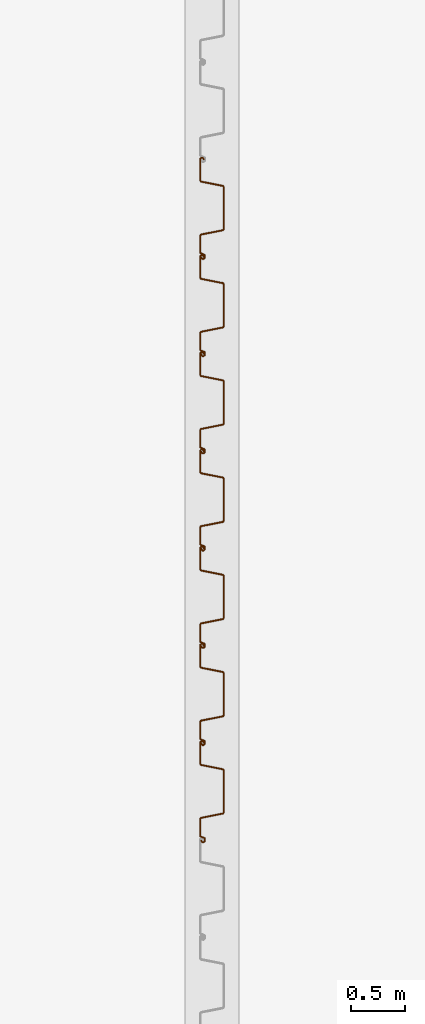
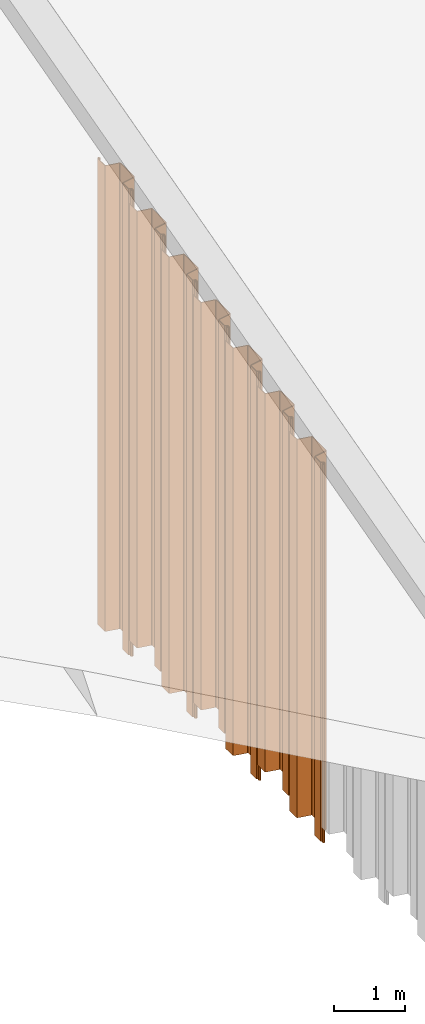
# One storey, part 23 of 32: 7 proxies.
"""IFC2X3 building model written with IfcOpenShell, lengths in millimetres."""

from ifc_helpers import new_model, entity, si_unit, converted_unit, derived_unit, direction, frame, frame_2d, origin, place, context, subcontext, project, spatial, polyline, circle_curve, parameter, trimmed, segment, composite_curve, outline, extrude, source, transform, mapped, type_object, type_shapes, element, save


model = new_model("IFC2X3")

# Units and contexts
model_context = context("Model", 3, precision=0.01, world=origin(), true_north=direction((6.12303176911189e-17, 1.0)))
body_context = subcontext(model_context, "Body", "Model", "MODEL_VIEW")
ifc_project = project(units=[si_unit("LENGTHUNIT", "METRE", prefix="MILLI"), si_unit("AREAUNIT", "SQUARE_METRE"), si_unit("VOLUMEUNIT", "CUBIC_METRE"), converted_unit("PLANEANGLEUNIT", "DEGREE", entity("IfcRatioMeasure", 0.0174532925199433), si_unit("PLANEANGLEUNIT", "RADIAN"), dimensions=[0, 0, 0, 0, 0, 0, 0]), si_unit("MASSUNIT", "GRAM", prefix="KILO"), derived_unit("MASSDENSITYUNIT", [(si_unit("MASSUNIT", "GRAM", prefix="KILO"), 1), (si_unit("LENGTHUNIT", "METRE"), -3)]), si_unit("TIMEUNIT", "SECOND"), si_unit("FREQUENCYUNIT", "HERTZ"), si_unit("THERMODYNAMICTEMPERATUREUNIT", "DEGREE_CELSIUS"), derived_unit("THERMALTRANSMITTANCEUNIT", [(si_unit("MASSUNIT", "GRAM", prefix="KILO"), 1), (si_unit("THERMODYNAMICTEMPERATUREUNIT", "KELVIN"), -1), (si_unit("TIMEUNIT", "SECOND"), -3)]), derived_unit("VOLUMETRICFLOWRATEUNIT", [(si_unit("LENGTHUNIT", "METRE"), 3), (si_unit("TIMEUNIT", "SECOND"), -1)]), si_unit("ELECTRICCURRENTUNIT", "AMPERE"), si_unit("ELECTRICVOLTAGEUNIT", "VOLT"), si_unit("POWERUNIT", "WATT"), si_unit("FORCEUNIT", "NEWTON", prefix="KILO"), si_unit("ILLUMINANCEUNIT", "LUX"), si_unit("LUMINOUSFLUXUNIT", "LUMEN"), si_unit("LUMINOUSINTENSITYUNIT", "CANDELA"), derived_unit("USERDEFINED", [(si_unit("MASSUNIT", "GRAM", prefix="KILO"), -1), (si_unit("LENGTHUNIT", "METRE"), -2), (si_unit("TIMEUNIT", "SECOND"), 3), (si_unit("LUMINOUSFLUXUNIT", "LUMEN"), 1)]), derived_unit("LINEARVELOCITYUNIT", [(si_unit("LENGTHUNIT", "METRE"), 1), (si_unit("TIMEUNIT", "SECOND"), -1)]), si_unit("PRESSUREUNIT", "PASCAL"), derived_unit("USERDEFINED", [(si_unit("LENGTHUNIT", "METRE"), -2), (si_unit("MASSUNIT", "GRAM", prefix="KILO"), 1), (si_unit("TIMEUNIT", "SECOND"), -2)])], contexts=[model_context])

# Site, building, storey
site_placement = place(None, origin())
site = spatial("IfcSite", under=ifc_project, at=site_placement, Name="Default", CompositionType="ELEMENT")
building_placement = place(site_placement, origin())
building = spatial("IfcBuilding", under=site, at=building_placement, CompositionType="ELEMENT")
storey_placement = place(building_placement, origin())
storey = spatial("IfcBuildingStorey", under=building, at=storey_placement, Name="矢板", CompositionType="ELEMENT", Elevation=0.0)

# Proxies
building_element_proxy_type_1 = type_object("IfcBuildingElementProxyType", Name="鋼矢板10H型", PredefinedType="NOTDEFINED")
shared_shape_1 = source(origin(), body_context, "Body", "SweptSolid", [
    extrude(outline(composite_curve([segment(trimmed(circle_curve(frame_2d((85.3662976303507, 306.644432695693), x_axis=(0.422618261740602, 0.906307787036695)), 13.885714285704), [parameter(24.9999999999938)], [parameter(90.0000000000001)], True, "PARAMETER"), True, "CONTINUOUS"), segment(polyline([(72.7815666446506, 312.512789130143), (9.8129512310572, 177.476157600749)]), True, "CONTINUOUS"), segment(trimmed(circle_curve(frame_2d((29.3891994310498, 168.347603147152), x_axis=(0.422618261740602, 0.906307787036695)), 21.6), [parameter(90.0000000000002)], [parameter(168.69006752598)], True, "PARAMETER"), True, "CONTINUOUS"), segment(polyline([(16.598697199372, 150.941769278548), (175.329723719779, 34.2998683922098)]), True, "CONTINUOUS"), segment(trimmed(circle_curve(frame_2d((168.93447260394, 25.596951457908), x_axis=(0.422618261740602, 0.906307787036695)), 10.7999999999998), [parameter(270.0)], [parameter(348.690067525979)], True, "PARAMETER"), False, "CONTINUOUS"), segment(polyline([(178.722596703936, 21.0326742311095), (18.2974003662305, -323.000269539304)]), True, "CONTINUOUS"), segment(trimmed(circle_curve(frame_2d((8.50927626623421, -318.435992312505), x_axis=(0.422618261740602, 0.906307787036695)), 10.8), [parameter(191.30993247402)], [parameter(269.999999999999)], True, "PARAMETER"), False, "CONTINUOUS"), segment(polyline([(5.95324328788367, -328.929166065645), (-185.429973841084, -282.310113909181)]), True, "CONTINUOUS"), segment(trimmed(circle_curve(frame_2d((-190.542039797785, -303.296461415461), x_axis=(0.422618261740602, 0.906307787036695)), 21.6000000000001), [parameter(11.3099324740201)], [parameter(90.0000000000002)], True, "PARAMETER"), True, "CONTINUOUS"), segment(polyline([(-210.118287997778, -294.167906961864), (-290.330886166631, -466.184378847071)]), True, "CONTINUOUS"), segment(trimmed(circle_curve(frame_2d((-270.754637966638, -475.312933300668), x_axis=(0.422618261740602, 0.906307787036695)), 21.6), [parameter(90.0000000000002)], [parameter(269.999999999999)], True, "PARAMETER"), True, "CONTINUOUS"), segment(polyline([(-251.178389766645, -484.441487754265), (-249.065298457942, -479.909948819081)]), True, "CONTINUOUS"), segment(polyline([(-249.065298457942, -479.909948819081), (-258.853422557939, -475.345671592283)]), True, "CONTINUOUS"), segment(polyline([(-258.853422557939, -475.345671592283), (-260.966513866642, -479.877210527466)]), True, "CONTINUOUS"), segment(trimmed(circle_curve(frame_2d((-270.754637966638, -475.312933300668), x_axis=(0.422618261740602, 0.906307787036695)), 10.8), [parameter(90.0000000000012)], [parameter(270.0)], True, "PARAMETER"), False, "CONTINUOUS"), segment(polyline([(-280.542762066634, -470.748656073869), (-200.330163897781, -298.732184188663)]), True, "CONTINUOUS"), segment(trimmed(circle_curve(frame_2d((-190.542039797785, -303.296461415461), x_axis=(0.422618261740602, 0.906307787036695)), 10.8), [parameter(11.3099324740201)], [parameter(89.9999999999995)], True, "PARAMETER"), False, "CONTINUOUS"), segment(polyline([(-187.986006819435, -292.803287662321), (3.39721030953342, -339.422339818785)]), True, "CONTINUOUS"), segment(trimmed(circle_curve(frame_2d((8.50927626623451, -318.435992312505), x_axis=(0.422618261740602, 0.906307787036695)), 21.6), [parameter(191.30993247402)], [parameter(270.0)], True, "PARAMETER"), True, "CONTINUOUS"), segment(polyline([(28.0855244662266, -327.564546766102), (188.510720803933, 16.4683970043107)]), True, "CONTINUOUS"), segment(trimmed(circle_curve(frame_2d((168.93447260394, 25.5969514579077), x_axis=(0.422618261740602, 0.906307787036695)), 21.6), [parameter(270.0)], [parameter(348.69006752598)], True, "PARAMETER"), True, "CONTINUOUS"), segment(polyline([(181.724974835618, 43.0027853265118), (22.9939483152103, 159.644686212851)]), True, "CONTINUOUS"), segment(trimmed(circle_curve(frame_2d((29.3891994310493, 168.347603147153), x_axis=(0.422618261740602, 0.906307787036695)), 10.7999999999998), [parameter(89.9999999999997)], [parameter(168.690067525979)], True, "PARAMETER"), False, "CONTINUOUS"), segment(polyline([(19.6010753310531, 172.911880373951), (82.5696907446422, 307.948511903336)]), True, "CONTINUOUS"), segment(trimmed(circle_curve(frame_2d((85.3662976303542, 306.64443269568), x_axis=(0.422618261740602, 0.906307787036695)), 3.08571428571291), [parameter(25.0000000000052)], [parameter(90.0000000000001)], True, "PARAMETER"), False, "CONTINUOUS"), segment(polyline([(85.3662976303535, 309.730146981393), (122.220231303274, 309.730146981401)]), True, "CONTINUOUS"), segment(trimmed(circle_curve(frame_2d((122.220231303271, 323.615861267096), x_axis=(0.422618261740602, 0.906307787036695)), 13.8857142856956), [parameter(205.000000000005)], [parameter(270.0)], True, "PARAMETER"), True, "CONTINUOUS"), segment(polyline([(134.804962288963, 317.747504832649), (141.079261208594, 331.202782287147)]), True, "CONTINUOUS"), segment(trimmed(circle_curve(frame_2d((121.503013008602, 340.331336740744), x_axis=(0.422618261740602, 0.906307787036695)), 21.6), [parameter(270.0)], [parameter(90.0000000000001)], True, "PARAMETER"), True, "CONTINUOUS"), segment(polyline([(101.926764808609, 349.459891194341), (99.8136734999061, 344.928352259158)]), True, "CONTINUOUS"), segment(polyline([(99.8136734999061, 344.928352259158), (109.601797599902, 340.364075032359)]), True, "CONTINUOUS"), segment(polyline([(109.601797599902, 340.364075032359), (111.714888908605, 344.895613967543)]), True, "CONTINUOUS"), segment(trimmed(circle_curve(frame_2d((121.503013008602, 340.331336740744), x_axis=(0.422618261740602, 0.906307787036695)), 10.8), [parameter(270.0)], [parameter(89.9999999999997)], True, "PARAMETER"), False, "CONTINUOUS"), segment(polyline([(131.291137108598, 335.767059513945), (125.01683818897, 322.311782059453)]), True, "CONTINUOUS"), segment(trimmed(circle_curve(frame_2d((122.220231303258, 323.615861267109), x_axis=(0.422618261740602, 0.906307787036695)), 3.08571428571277), [parameter(204.999999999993)], [parameter(270.0)], True, "PARAMETER"), False, "CONTINUOUS"), segment(polyline([(122.220231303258, 320.530146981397), (85.3662976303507, 320.530146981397)]), True, "CONTINUOUS")], self_intersect=False)), frame((95.205667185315, -48.8888888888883, -6500.0), z_axis=(0.0, 0.0, -1.0), x_axis=(0.4226182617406, 0.906307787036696, 0.0)), (0.0, 0.0, -1.0), 6500.0),
])
type_shapes(building_element_proxy_type_1, [shared_shape_1])
for number, where, z_axis, x_axis in (
    (1, (148500.0, -22249.0, 8709.0), (0.0, 0.0, 1.0), (0.0, -1.0, 0.0)),
    (2, (148500.0, -23149.0, 8471.0), (0.0, 0.0, 1.0), (0.0, -1.0, 0.0)),
):
    element("IfcBuildingElementProxy", number, at=place(storey_placement, frame(where, z_axis=z_axis, x_axis=x_axis)), inside=storey, type_object=building_element_proxy_type_1, Name="鋼矢板10H型:鋼矢板10H型", ObjectType="鋼矢板10H型:鋼矢板10H型", context=body_context, shape_type="MappedRepresentation", body=[
        mapped(shared_shape_1, transform((0.0, 0.0, 0.0), scale=1.0)),
    ])
building_element_proxy_type_2 = type_object("IfcBuildingElementProxyType", Name="鋼矢板10H型", PredefinedType="NOTDEFINED")
shared_shape_2 = source(origin(), body_context, "Body", "SweptSolid", [
    extrude(outline(composite_curve([segment(trimmed(circle_curve(frame_2d((85.3662976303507, 306.644432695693), x_axis=(0.422618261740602, 0.906307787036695)), 13.885714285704), [parameter(24.9999999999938)], [parameter(90.0000000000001)], True, "PARAMETER"), True, "CONTINUOUS"), segment(polyline([(72.7815666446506, 312.512789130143), (9.8129512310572, 177.476157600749)]), True, "CONTINUOUS"), segment(trimmed(circle_curve(frame_2d((29.3891994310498, 168.347603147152), x_axis=(0.422618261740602, 0.906307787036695)), 21.6), [parameter(90.0000000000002)], [parameter(168.69006752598)], True, "PARAMETER"), True, "CONTINUOUS"), segment(polyline([(16.598697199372, 150.941769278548), (175.329723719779, 34.2998683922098)]), True, "CONTINUOUS"), segment(trimmed(circle_curve(frame_2d((168.93447260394, 25.596951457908), x_axis=(0.422618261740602, 0.906307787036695)), 10.7999999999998), [parameter(270.0)], [parameter(348.690067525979)], True, "PARAMETER"), False, "CONTINUOUS"), segment(polyline([(178.722596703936, 21.0326742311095), (18.2974003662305, -323.000269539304)]), True, "CONTINUOUS"), segment(trimmed(circle_curve(frame_2d((8.50927626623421, -318.435992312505), x_axis=(0.422618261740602, 0.906307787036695)), 10.8), [parameter(191.30993247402)], [parameter(269.999999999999)], True, "PARAMETER"), False, "CONTINUOUS"), segment(polyline([(5.95324328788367, -328.929166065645), (-185.429973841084, -282.310113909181)]), True, "CONTINUOUS"), segment(trimmed(circle_curve(frame_2d((-190.542039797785, -303.296461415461), x_axis=(0.422618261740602, 0.906307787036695)), 21.6000000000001), [parameter(11.3099324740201)], [parameter(90.0000000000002)], True, "PARAMETER"), True, "CONTINUOUS"), segment(polyline([(-210.118287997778, -294.167906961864), (-290.330886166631, -466.184378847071)]), True, "CONTINUOUS"), segment(trimmed(circle_curve(frame_2d((-270.754637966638, -475.312933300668), x_axis=(0.422618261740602, 0.906307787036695)), 21.6), [parameter(90.0000000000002)], [parameter(269.999999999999)], True, "PARAMETER"), True, "CONTINUOUS"), segment(polyline([(-251.178389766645, -484.441487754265), (-249.065298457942, -479.909948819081)]), True, "CONTINUOUS"), segment(polyline([(-249.065298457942, -479.909948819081), (-258.853422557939, -475.345671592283)]), True, "CONTINUOUS"), segment(polyline([(-258.853422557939, -475.345671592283), (-260.966513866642, -479.877210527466)]), True, "CONTINUOUS"), segment(trimmed(circle_curve(frame_2d((-270.754637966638, -475.312933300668), x_axis=(0.422618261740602, 0.906307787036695)), 10.8), [parameter(90.0000000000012)], [parameter(270.0)], True, "PARAMETER"), False, "CONTINUOUS"), segment(polyline([(-280.542762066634, -470.748656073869), (-200.330163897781, -298.732184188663)]), True, "CONTINUOUS"), segment(trimmed(circle_curve(frame_2d((-190.542039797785, -303.296461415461), x_axis=(0.422618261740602, 0.906307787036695)), 10.8), [parameter(11.3099324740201)], [parameter(89.9999999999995)], True, "PARAMETER"), False, "CONTINUOUS"), segment(polyline([(-187.986006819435, -292.803287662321), (3.39721030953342, -339.422339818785)]), True, "CONTINUOUS"), segment(trimmed(circle_curve(frame_2d((8.50927626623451, -318.435992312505), x_axis=(0.422618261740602, 0.906307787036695)), 21.6), [parameter(191.30993247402)], [parameter(270.0)], True, "PARAMETER"), True, "CONTINUOUS"), segment(polyline([(28.0855244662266, -327.564546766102), (188.510720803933, 16.4683970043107)]), True, "CONTINUOUS"), segment(trimmed(circle_curve(frame_2d((168.93447260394, 25.5969514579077), x_axis=(0.422618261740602, 0.906307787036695)), 21.6), [parameter(270.0)], [parameter(348.69006752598)], True, "PARAMETER"), True, "CONTINUOUS"), segment(polyline([(181.724974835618, 43.0027853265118), (22.9939483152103, 159.644686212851)]), True, "CONTINUOUS"), segment(trimmed(circle_curve(frame_2d((29.3891994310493, 168.347603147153), x_axis=(0.422618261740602, 0.906307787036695)), 10.7999999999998), [parameter(89.9999999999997)], [parameter(168.690067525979)], True, "PARAMETER"), False, "CONTINUOUS"), segment(polyline([(19.6010753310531, 172.911880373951), (82.5696907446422, 307.948511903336)]), True, "CONTINUOUS"), segment(trimmed(circle_curve(frame_2d((85.3662976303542, 306.64443269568), x_axis=(0.422618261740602, 0.906307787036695)), 3.08571428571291), [parameter(25.0000000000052)], [parameter(90.0000000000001)], True, "PARAMETER"), False, "CONTINUOUS"), segment(polyline([(85.3662976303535, 309.730146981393), (122.220231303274, 309.730146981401)]), True, "CONTINUOUS"), segment(trimmed(circle_curve(frame_2d((122.220231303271, 323.615861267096), x_axis=(0.422618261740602, 0.906307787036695)), 13.8857142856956), [parameter(205.000000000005)], [parameter(270.0)], True, "PARAMETER"), True, "CONTINUOUS"), segment(polyline([(134.804962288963, 317.747504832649), (141.079261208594, 331.202782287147)]), True, "CONTINUOUS"), segment(trimmed(circle_curve(frame_2d((121.503013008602, 340.331336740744), x_axis=(0.422618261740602, 0.906307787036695)), 21.6), [parameter(270.0)], [parameter(90.0000000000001)], True, "PARAMETER"), True, "CONTINUOUS"), segment(polyline([(101.926764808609, 349.459891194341), (99.8136734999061, 344.928352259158)]), True, "CONTINUOUS"), segment(polyline([(99.8136734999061, 344.928352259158), (109.601797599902, 340.364075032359)]), True, "CONTINUOUS"), segment(polyline([(109.601797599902, 340.364075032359), (111.714888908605, 344.895613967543)]), True, "CONTINUOUS"), segment(trimmed(circle_curve(frame_2d((121.503013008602, 340.331336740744), x_axis=(0.422618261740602, 0.906307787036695)), 10.8), [parameter(270.0)], [parameter(89.9999999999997)], True, "PARAMETER"), False, "CONTINUOUS"), segment(polyline([(131.291137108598, 335.767059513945), (125.01683818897, 322.311782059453)]), True, "CONTINUOUS"), segment(trimmed(circle_curve(frame_2d((122.220231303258, 323.615861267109), x_axis=(0.422618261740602, 0.906307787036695)), 3.08571428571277), [parameter(204.999999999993)], [parameter(270.0)], True, "PARAMETER"), False, "CONTINUOUS"), segment(polyline([(122.220231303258, 320.530146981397), (85.3662976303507, 320.530146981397)]), True, "CONTINUOUS")], self_intersect=False)), frame((95.205667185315, -48.8888888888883, -7000.0), z_axis=(0.0, 0.0, -1.0), x_axis=(0.4226182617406, 0.906307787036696, 0.0)), (0.0, 0.0, -1.0), 7000.0),
])
type_shapes(building_element_proxy_type_2, [shared_shape_2])
for number, where, z_axis, x_axis in (
    (3, (148500.0, -20449.0, 9183.0), (0.0, 0.0, 1.0), (0.0, -1.0, 0.0)),
    (4, (148500.0, -21349.0, 8946.0), (0.0, 0.0, 1.0), (0.0, -1.0, 0.0)),
):
    element("IfcBuildingElementProxy", number, at=place(storey_placement, frame(where, z_axis=z_axis, x_axis=x_axis)), inside=storey, type_object=building_element_proxy_type_2, Name="鋼矢板10H型:鋼矢板10H型", ObjectType="鋼矢板10H型:鋼矢板10H型", context=body_context, shape_type="MappedRepresentation", body=[
        mapped(shared_shape_2, transform((0.0, 0.0, 0.0), scale=1.0)),
    ])
building_element_proxy_type_3 = type_object("IfcBuildingElementProxyType", Name="鋼矢板10H型", PredefinedType="NOTDEFINED")
shared_shape_3 = source(origin(), body_context, "Body", "SweptSolid", [
    extrude(outline(composite_curve([segment(trimmed(circle_curve(frame_2d((85.3662976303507, 306.644432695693), x_axis=(0.422618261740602, 0.906307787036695)), 13.885714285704), [parameter(24.9999999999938)], [parameter(90.0000000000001)], True, "PARAMETER"), True, "CONTINUOUS"), segment(polyline([(72.7815666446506, 312.512789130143), (9.8129512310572, 177.476157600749)]), True, "CONTINUOUS"), segment(trimmed(circle_curve(frame_2d((29.3891994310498, 168.347603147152), x_axis=(0.422618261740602, 0.906307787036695)), 21.6), [parameter(90.0000000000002)], [parameter(168.69006752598)], True, "PARAMETER"), True, "CONTINUOUS"), segment(polyline([(16.598697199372, 150.941769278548), (175.329723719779, 34.2998683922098)]), True, "CONTINUOUS"), segment(trimmed(circle_curve(frame_2d((168.93447260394, 25.596951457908), x_axis=(0.422618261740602, 0.906307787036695)), 10.7999999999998), [parameter(270.0)], [parameter(348.690067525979)], True, "PARAMETER"), False, "CONTINUOUS"), segment(polyline([(178.722596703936, 21.0326742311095), (18.2974003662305, -323.000269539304)]), True, "CONTINUOUS"), segment(trimmed(circle_curve(frame_2d((8.50927626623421, -318.435992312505), x_axis=(0.422618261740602, 0.906307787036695)), 10.8), [parameter(191.30993247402)], [parameter(269.999999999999)], True, "PARAMETER"), False, "CONTINUOUS"), segment(polyline([(5.95324328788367, -328.929166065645), (-185.429973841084, -282.310113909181)]), True, "CONTINUOUS"), segment(trimmed(circle_curve(frame_2d((-190.542039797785, -303.296461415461), x_axis=(0.422618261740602, 0.906307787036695)), 21.6000000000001), [parameter(11.3099324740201)], [parameter(90.0000000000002)], True, "PARAMETER"), True, "CONTINUOUS"), segment(polyline([(-210.118287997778, -294.167906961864), (-290.330886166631, -466.184378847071)]), True, "CONTINUOUS"), segment(trimmed(circle_curve(frame_2d((-270.754637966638, -475.312933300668), x_axis=(0.422618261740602, 0.906307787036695)), 21.6), [parameter(90.0000000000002)], [parameter(269.999999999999)], True, "PARAMETER"), True, "CONTINUOUS"), segment(polyline([(-251.178389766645, -484.441487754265), (-249.065298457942, -479.909948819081)]), True, "CONTINUOUS"), segment(polyline([(-249.065298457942, -479.909948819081), (-258.853422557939, -475.345671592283)]), True, "CONTINUOUS"), segment(polyline([(-258.853422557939, -475.345671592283), (-260.966513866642, -479.877210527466)]), True, "CONTINUOUS"), segment(trimmed(circle_curve(frame_2d((-270.754637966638, -475.312933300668), x_axis=(0.422618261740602, 0.906307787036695)), 10.8), [parameter(90.0000000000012)], [parameter(270.0)], True, "PARAMETER"), False, "CONTINUOUS"), segment(polyline([(-280.542762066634, -470.748656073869), (-200.330163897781, -298.732184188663)]), True, "CONTINUOUS"), segment(trimmed(circle_curve(frame_2d((-190.542039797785, -303.296461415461), x_axis=(0.422618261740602, 0.906307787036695)), 10.8), [parameter(11.3099324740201)], [parameter(89.9999999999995)], True, "PARAMETER"), False, "CONTINUOUS"), segment(polyline([(-187.986006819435, -292.803287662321), (3.39721030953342, -339.422339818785)]), True, "CONTINUOUS"), segment(trimmed(circle_curve(frame_2d((8.50927626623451, -318.435992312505), x_axis=(0.422618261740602, 0.906307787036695)), 21.6), [parameter(191.30993247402)], [parameter(270.0)], True, "PARAMETER"), True, "CONTINUOUS"), segment(polyline([(28.0855244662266, -327.564546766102), (188.510720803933, 16.4683970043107)]), True, "CONTINUOUS"), segment(trimmed(circle_curve(frame_2d((168.93447260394, 25.5969514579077), x_axis=(0.422618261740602, 0.906307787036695)), 21.6), [parameter(270.0)], [parameter(348.69006752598)], True, "PARAMETER"), True, "CONTINUOUS"), segment(polyline([(181.724974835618, 43.0027853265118), (22.9939483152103, 159.644686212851)]), True, "CONTINUOUS"), segment(trimmed(circle_curve(frame_2d((29.3891994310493, 168.347603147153), x_axis=(0.422618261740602, 0.906307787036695)), 10.7999999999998), [parameter(89.9999999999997)], [parameter(168.690067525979)], True, "PARAMETER"), False, "CONTINUOUS"), segment(polyline([(19.6010753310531, 172.911880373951), (82.5696907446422, 307.948511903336)]), True, "CONTINUOUS"), segment(trimmed(circle_curve(frame_2d((85.3662976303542, 306.64443269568), x_axis=(0.422618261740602, 0.906307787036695)), 3.08571428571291), [parameter(25.0000000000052)], [parameter(90.0000000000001)], True, "PARAMETER"), False, "CONTINUOUS"), segment(polyline([(85.3662976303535, 309.730146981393), (122.220231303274, 309.730146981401)]), True, "CONTINUOUS"), segment(trimmed(circle_curve(frame_2d((122.220231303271, 323.615861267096), x_axis=(0.422618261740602, 0.906307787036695)), 13.8857142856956), [parameter(205.000000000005)], [parameter(270.0)], True, "PARAMETER"), True, "CONTINUOUS"), segment(polyline([(134.804962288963, 317.747504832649), (141.079261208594, 331.202782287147)]), True, "CONTINUOUS"), segment(trimmed(circle_curve(frame_2d((121.503013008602, 340.331336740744), x_axis=(0.422618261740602, 0.906307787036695)), 21.6), [parameter(270.0)], [parameter(90.0000000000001)], True, "PARAMETER"), True, "CONTINUOUS"), segment(polyline([(101.926764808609, 349.459891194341), (99.8136734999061, 344.928352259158)]), True, "CONTINUOUS"), segment(polyline([(99.8136734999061, 344.928352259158), (109.601797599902, 340.364075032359)]), True, "CONTINUOUS"), segment(polyline([(109.601797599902, 340.364075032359), (111.714888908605, 344.895613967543)]), True, "CONTINUOUS"), segment(trimmed(circle_curve(frame_2d((121.503013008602, 340.331336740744), x_axis=(0.422618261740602, 0.906307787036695)), 10.8), [parameter(270.0)], [parameter(89.9999999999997)], True, "PARAMETER"), False, "CONTINUOUS"), segment(polyline([(131.291137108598, 335.767059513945), (125.01683818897, 322.311782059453)]), True, "CONTINUOUS"), segment(trimmed(circle_curve(frame_2d((122.220231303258, 323.615861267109), x_axis=(0.422618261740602, 0.906307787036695)), 3.08571428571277), [parameter(204.999999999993)], [parameter(270.0)], True, "PARAMETER"), False, "CONTINUOUS"), segment(polyline([(122.220231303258, 320.530146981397), (85.3662976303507, 320.530146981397)]), True, "CONTINUOUS")], self_intersect=False)), frame((95.205667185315, -48.8888888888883, -7500.0), z_axis=(0.0, 0.0, -1.0), x_axis=(0.4226182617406, 0.906307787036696, 0.0)), (0.0, 0.0, -1.0), 7500.0),
])
type_shapes(building_element_proxy_type_3, [shared_shape_3])
for number, where, z_axis, x_axis in (
    (5, (148500.0, -18649.0, 9657.0), (0.0, 0.0, 1.0), (0.0, -1.0, 0.0)),
    (6, (148500.0, -19549.0, 9420.0), (0.0, 0.0, 1.0), (0.0, -1.0, 0.0)),
):
    element("IfcBuildingElementProxy", number, at=place(storey_placement, frame(where, z_axis=z_axis, x_axis=x_axis)), inside=storey, type_object=building_element_proxy_type_3, Name="鋼矢板10H型:鋼矢板10H型", ObjectType="鋼矢板10H型:鋼矢板10H型", context=body_context, shape_type="MappedRepresentation", body=[
        mapped(shared_shape_3, transform((0.0, 0.0, 0.0), scale=1.0)),
    ])
building_element_proxy_type_4 = type_object("IfcBuildingElementProxyType", Name="鋼矢板10H型", PredefinedType="NOTDEFINED")
shared_shape_4 = source(origin(), body_context, "Body", "SweptSolid", [
    extrude(outline(composite_curve([segment(trimmed(circle_curve(frame_2d((85.3662976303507, 306.644432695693), x_axis=(0.422618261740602, 0.906307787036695)), 13.885714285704), [parameter(24.9999999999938)], [parameter(90.0000000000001)], True, "PARAMETER"), True, "CONTINUOUS"), segment(polyline([(72.7815666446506, 312.512789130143), (9.8129512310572, 177.476157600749)]), True, "CONTINUOUS"), segment(trimmed(circle_curve(frame_2d((29.3891994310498, 168.347603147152), x_axis=(0.422618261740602, 0.906307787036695)), 21.6), [parameter(90.0000000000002)], [parameter(168.69006752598)], True, "PARAMETER"), True, "CONTINUOUS"), segment(polyline([(16.598697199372, 150.941769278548), (175.329723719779, 34.2998683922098)]), True, "CONTINUOUS"), segment(trimmed(circle_curve(frame_2d((168.93447260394, 25.596951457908), x_axis=(0.422618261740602, 0.906307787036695)), 10.7999999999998), [parameter(270.0)], [parameter(348.690067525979)], True, "PARAMETER"), False, "CONTINUOUS"), segment(polyline([(178.722596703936, 21.0326742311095), (18.2974003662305, -323.000269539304)]), True, "CONTINUOUS"), segment(trimmed(circle_curve(frame_2d((8.50927626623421, -318.435992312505), x_axis=(0.422618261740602, 0.906307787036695)), 10.8), [parameter(191.30993247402)], [parameter(269.999999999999)], True, "PARAMETER"), False, "CONTINUOUS"), segment(polyline([(5.95324328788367, -328.929166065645), (-185.429973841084, -282.310113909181)]), True, "CONTINUOUS"), segment(trimmed(circle_curve(frame_2d((-190.542039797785, -303.296461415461), x_axis=(0.422618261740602, 0.906307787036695)), 21.6000000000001), [parameter(11.3099324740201)], [parameter(90.0000000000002)], True, "PARAMETER"), True, "CONTINUOUS"), segment(polyline([(-210.118287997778, -294.167906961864), (-290.330886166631, -466.184378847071)]), True, "CONTINUOUS"), segment(trimmed(circle_curve(frame_2d((-270.754637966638, -475.312933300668), x_axis=(0.422618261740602, 0.906307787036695)), 21.6), [parameter(90.0000000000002)], [parameter(269.999999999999)], True, "PARAMETER"), True, "CONTINUOUS"), segment(polyline([(-251.178389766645, -484.441487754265), (-249.065298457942, -479.909948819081)]), True, "CONTINUOUS"), segment(polyline([(-249.065298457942, -479.909948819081), (-258.853422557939, -475.345671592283)]), True, "CONTINUOUS"), segment(polyline([(-258.853422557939, -475.345671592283), (-260.966513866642, -479.877210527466)]), True, "CONTINUOUS"), segment(trimmed(circle_curve(frame_2d((-270.754637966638, -475.312933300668), x_axis=(0.422618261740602, 0.906307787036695)), 10.8), [parameter(90.0000000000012)], [parameter(270.0)], True, "PARAMETER"), False, "CONTINUOUS"), segment(polyline([(-280.542762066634, -470.748656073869), (-200.330163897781, -298.732184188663)]), True, "CONTINUOUS"), segment(trimmed(circle_curve(frame_2d((-190.542039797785, -303.296461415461), x_axis=(0.422618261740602, 0.906307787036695)), 10.8), [parameter(11.3099324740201)], [parameter(89.9999999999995)], True, "PARAMETER"), False, "CONTINUOUS"), segment(polyline([(-187.986006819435, -292.803287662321), (3.39721030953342, -339.422339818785)]), True, "CONTINUOUS"), segment(trimmed(circle_curve(frame_2d((8.50927626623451, -318.435992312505), x_axis=(0.422618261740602, 0.906307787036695)), 21.6), [parameter(191.30993247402)], [parameter(270.0)], True, "PARAMETER"), True, "CONTINUOUS"), segment(polyline([(28.0855244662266, -327.564546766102), (188.510720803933, 16.4683970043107)]), True, "CONTINUOUS"), segment(trimmed(circle_curve(frame_2d((168.93447260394, 25.5969514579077), x_axis=(0.422618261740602, 0.906307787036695)), 21.6), [parameter(270.0)], [parameter(348.69006752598)], True, "PARAMETER"), True, "CONTINUOUS"), segment(polyline([(181.724974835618, 43.0027853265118), (22.9939483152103, 159.644686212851)]), True, "CONTINUOUS"), segment(trimmed(circle_curve(frame_2d((29.3891994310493, 168.347603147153), x_axis=(0.422618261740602, 0.906307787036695)), 10.7999999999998), [parameter(89.9999999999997)], [parameter(168.690067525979)], True, "PARAMETER"), False, "CONTINUOUS"), segment(polyline([(19.6010753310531, 172.911880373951), (82.5696907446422, 307.948511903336)]), True, "CONTINUOUS"), segment(trimmed(circle_curve(frame_2d((85.3662976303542, 306.64443269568), x_axis=(0.422618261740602, 0.906307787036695)), 3.08571428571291), [parameter(25.0000000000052)], [parameter(90.0000000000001)], True, "PARAMETER"), False, "CONTINUOUS"), segment(polyline([(85.3662976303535, 309.730146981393), (122.220231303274, 309.730146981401)]), True, "CONTINUOUS"), segment(trimmed(circle_curve(frame_2d((122.220231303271, 323.615861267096), x_axis=(0.422618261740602, 0.906307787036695)), 13.8857142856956), [parameter(205.000000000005)], [parameter(270.0)], True, "PARAMETER"), True, "CONTINUOUS"), segment(polyline([(134.804962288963, 317.747504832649), (141.079261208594, 331.202782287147)]), True, "CONTINUOUS"), segment(trimmed(circle_curve(frame_2d((121.503013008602, 340.331336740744), x_axis=(0.422618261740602, 0.906307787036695)), 21.6), [parameter(270.0)], [parameter(90.0000000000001)], True, "PARAMETER"), True, "CONTINUOUS"), segment(polyline([(101.926764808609, 349.459891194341), (99.8136734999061, 344.928352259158)]), True, "CONTINUOUS"), segment(polyline([(99.8136734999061, 344.928352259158), (109.601797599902, 340.364075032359)]), True, "CONTINUOUS"), segment(polyline([(109.601797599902, 340.364075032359), (111.714888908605, 344.895613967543)]), True, "CONTINUOUS"), segment(trimmed(circle_curve(frame_2d((121.503013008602, 340.331336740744), x_axis=(0.422618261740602, 0.906307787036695)), 10.8), [parameter(270.0)], [parameter(89.9999999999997)], True, "PARAMETER"), False, "CONTINUOUS"), segment(polyline([(131.291137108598, 335.767059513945), (125.01683818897, 322.311782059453)]), True, "CONTINUOUS"), segment(trimmed(circle_curve(frame_2d((122.220231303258, 323.615861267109), x_axis=(0.422618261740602, 0.906307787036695)), 3.08571428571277), [parameter(204.999999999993)], [parameter(270.0)], True, "PARAMETER"), False, "CONTINUOUS"), segment(polyline([(122.220231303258, 320.530146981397), (85.3662976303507, 320.530146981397)]), True, "CONTINUOUS")], self_intersect=False)), frame((95.205667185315, -48.8888888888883, -8000.0), z_axis=(0.0, 0.0, -1.0), x_axis=(0.4226182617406, 0.906307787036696, 0.0)), (0.0, 0.0, -1.0), 8000.0),
])
type_shapes(building_element_proxy_type_4, [shared_shape_4])
proxy_placement = place(storey_placement, frame((148500.0, -17749.0, 9894.0), z_axis=(0.0, 0.0, 1.0), x_axis=(0.0, -1.0, 0.0)))
element("IfcBuildingElementProxy", 7, at=proxy_placement, inside=storey, type_object=building_element_proxy_type_4, Name="鋼矢板10H型:鋼矢板10H型", ObjectType="鋼矢板10H型:鋼矢板10H型", context=body_context, shape_type="MappedRepresentation", body=[
    mapped(shared_shape_4, transform((0.0, 0.0, 0.0), scale=1.0)),
])

save(model, "model.ifc")
